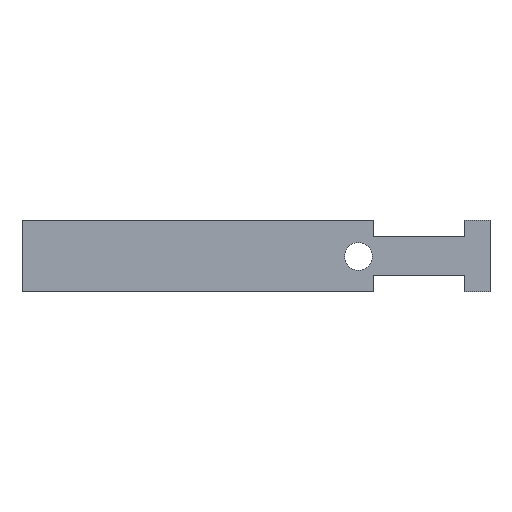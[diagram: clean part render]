
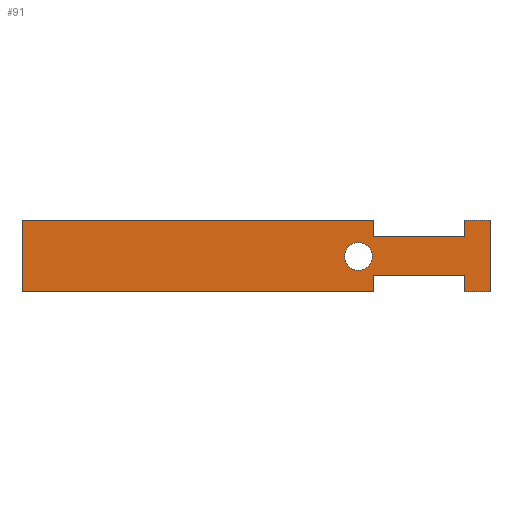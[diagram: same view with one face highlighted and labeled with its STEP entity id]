
A CAD part, top view. The second image highlights one B-rep face of the part: STEP entity #91.
In plain terms, the highlighted planar face has unit normal (0, 0, 1).
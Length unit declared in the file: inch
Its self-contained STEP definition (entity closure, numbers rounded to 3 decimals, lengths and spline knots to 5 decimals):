
#91=ADVANCED_FACE('',(#169,#170),#171,.T.);
#169=FACE_BOUND('',#270,.T.);
#170=FACE_OUTER_BOUND('',#271,.T.);
#171=PLANE('',#272);
#270=EDGE_LOOP('',(#414,#415,#416,#417));
#271=EDGE_LOOP('',(#418,#419,#420,#421,#422,#423,#424,#425,#426,#427,#428,#429));
#272=AXIS2_PLACEMENT_3D('',#430,#431,#432);
#414=ORIENTED_EDGE('',*,*,#463,.F.);
#415=ORIENTED_EDGE('',*,*,#498,.F.);
#416=ORIENTED_EDGE('',*,*,#443,.F.);
#417=ORIENTED_EDGE('',*,*,#486,.F.);
#418=ORIENTED_EDGE('',*,*,#439,.F.);
#419=ORIENTED_EDGE('',*,*,#434,.F.);
#420=ORIENTED_EDGE('',*,*,#482,.F.);
#421=ORIENTED_EDGE('',*,*,#458,.F.);
#422=ORIENTED_EDGE('',*,*,#484,.F.);
#423=ORIENTED_EDGE('',*,*,#453,.F.);
#424=ORIENTED_EDGE('',*,*,#496,.F.);
#425=ORIENTED_EDGE('',*,*,#448,.F.);
#426=ORIENTED_EDGE('',*,*,#494,.F.);
#427=ORIENTED_EDGE('',*,*,#491,.F.);
#428=ORIENTED_EDGE('',*,*,#488,.F.);
#429=ORIENTED_EDGE('',*,*,#479,.F.);
#430=CARTESIAN_POINT('',(4.67757,0.68751,0.105));
#431=DIRECTION('',(0.0,0.0,1.0));
#432=DIRECTION('',(1.0,0.0,0.0));
#434=EDGE_CURVE('',#501,#502,#503,.T.);
#439=EDGE_CURVE('',#502,#510,#511,.T.);
#443=EDGE_CURVE('',#516,#517,#518,.T.);
#448=EDGE_CURVE('',#525,#526,#527,.T.);
#453=EDGE_CURVE('',#534,#535,#536,.T.);
#458=EDGE_CURVE('',#543,#544,#545,.T.);
#463=EDGE_CURVE('',#552,#553,#554,.T.);
#479=EDGE_CURVE('',#510,#575,#576,.T.);
#482=EDGE_CURVE('',#544,#501,#579,.T.);
#484=EDGE_CURVE('',#535,#543,#581,.T.);
#486=EDGE_CURVE('',#553,#516,#583,.T.);
#488=EDGE_CURVE('',#575,#585,#586,.T.);
#491=EDGE_CURVE('',#585,#589,#590,.T.);
#494=EDGE_CURVE('',#589,#525,#593,.T.);
#496=EDGE_CURVE('',#526,#534,#595,.T.);
#498=EDGE_CURVE('',#517,#552,#597,.T.);
#501=VERTEX_POINT('',#600);
#502=VERTEX_POINT('',#601);
#503=LINE('',#602,#603);
#510=VERTEX_POINT('',#613);
#511=LINE('',#614,#615);
#516=VERTEX_POINT('',#622);
#517=VERTEX_POINT('',#623);
#518=B_SPLINE_CURVE_WITH_KNOTS('',3,(#624,#625,#626,#627),.UNSPECIFIED.,.F.,.F.,(4,4),(-1.0,-0.0),.UNSPECIFIED.);
#525=VERTEX_POINT('',#639);
#526=VERTEX_POINT('',#640);
#527=LINE('',#641,#642);
#534=VERTEX_POINT('',#652);
#535=VERTEX_POINT('',#653);
#536=LINE('',#654,#655);
#543=VERTEX_POINT('',#665);
#544=VERTEX_POINT('',#666);
#545=LINE('',#667,#668);
#552=VERTEX_POINT('',#678);
#553=VERTEX_POINT('',#679);
#554=B_SPLINE_CURVE_WITH_KNOTS('',3,(#680,#681,#682,#683),.UNSPECIFIED.,.F.,.F.,(4,4),(-1.0,-0.0),.UNSPECIFIED.);
#575=VERTEX_POINT('',#722);
#576=LINE('',#723,#724);
#579=LINE('',#728,#729);
#581=LINE('',#731,#732);
#583=B_SPLINE_CURVE_WITH_KNOTS('',3,(#734,#735,#736,#737),.UNSPECIFIED.,.F.,.F.,(4,4),(-1.0,-0.0),.UNSPECIFIED.);
#585=VERTEX_POINT('',#739);
#586=LINE('',#740,#741);
#589=VERTEX_POINT('',#745);
#590=LINE('',#746,#747);
#593=LINE('',#751,#752);
#595=LINE('',#754,#755);
#597=B_SPLINE_CURVE_WITH_KNOTS('',3,(#757,#758,#759,#760),.UNSPECIFIED.,.F.,.F.,(4,4),(-1.0,-0.0),.UNSPECIFIED.);
#600=CARTESIAN_POINT('',(9.0,0.0,0.105));
#601=CARTESIAN_POINT('',(8.5,0.0,0.105));
#602=CARTESIAN_POINT('',(9.0,0.0,0.105));
#603=VECTOR('',#762,1.0);
#613=CARTESIAN_POINT('',(8.50007,0.31246,0.105));
#614=CARTESIAN_POINT('',(8.5,0.0,0.105));
#615=VECTOR('',#766,1.0);
#622=CARTESIAN_POINT('',(6.46866,0.41444,0.105));
#623=CARTESIAN_POINT('',(6.73428,0.68007,0.105));
#624=CARTESIAN_POINT('',(6.46866,0.41444,0.105));
#625=CARTESIAN_POINT('',(6.61536,0.41444,0.105));
#626=CARTESIAN_POINT('',(6.73428,0.53337,0.105));
#627=CARTESIAN_POINT('',(6.73428,0.68007,0.105));
#639=CARTESIAN_POINT('',(0.0,1.375,0.105));
#640=CARTESIAN_POINT('',(6.75007,1.375,0.105));
#641=CARTESIAN_POINT('',(0.0,1.375,0.105));
#642=VECTOR('',#771,1.0);
#652=CARTESIAN_POINT('',(6.75007,1.06288,0.105));
#653=CARTESIAN_POINT('',(8.50007,1.06246,0.105));
#654=CARTESIAN_POINT('',(6.75007,1.06288,0.105));
#655=VECTOR('',#775,1.0);
#665=CARTESIAN_POINT('',(8.5,1.375,0.105));
#666=CARTESIAN_POINT('',(9.0,1.375,0.105));
#667=CARTESIAN_POINT('',(8.5,1.375,0.105));
#668=VECTOR('',#779,1.0);
#678=CARTESIAN_POINT('',(6.46866,0.94569,0.105));
#679=CARTESIAN_POINT('',(6.20303,0.68007,0.105));
#680=CARTESIAN_POINT('',(6.46866,0.94569,0.105));
#681=CARTESIAN_POINT('',(6.32195,0.94569,0.105));
#682=CARTESIAN_POINT('',(6.20303,0.82677,0.105));
#683=CARTESIAN_POINT('',(6.20303,0.68007,0.105));
#722=CARTESIAN_POINT('',(6.75007,0.31269,0.105));
#723=CARTESIAN_POINT('',(8.50007,0.31246,0.105));
#724=VECTOR('',#792,1.0);
#728=CARTESIAN_POINT('',(9.0,1.375,0.105));
#729=VECTOR('',#794,1.0);
#731=CARTESIAN_POINT('',(8.50007,1.06246,0.105));
#732=VECTOR('',#795,1.0);
#734=CARTESIAN_POINT('',(6.20303,0.68007,0.105));
#735=CARTESIAN_POINT('',(6.20303,0.53337,0.105));
#736=CARTESIAN_POINT('',(6.32195,0.41444,0.105));
#737=CARTESIAN_POINT('',(6.46866,0.41444,0.105));
#739=CARTESIAN_POINT('',(6.75007,0.0,0.105));
#740=CARTESIAN_POINT('',(6.75007,0.31269,0.105));
#741=VECTOR('',#796,1.0);
#745=CARTESIAN_POINT('',(0.0,0.0,0.105));
#746=CARTESIAN_POINT('',(6.75007,0.0,0.105));
#747=VECTOR('',#798,1.0);
#751=CARTESIAN_POINT('',(0.0,0.0,0.105));
#752=VECTOR('',#800,1.0);
#754=CARTESIAN_POINT('',(6.75007,1.375,0.105));
#755=VECTOR('',#801,1.0);
#757=CARTESIAN_POINT('',(6.73428,0.68007,0.105));
#758=CARTESIAN_POINT('',(6.73428,0.82677,0.105));
#759=CARTESIAN_POINT('',(6.61536,0.94569,0.105));
#760=CARTESIAN_POINT('',(6.46866,0.94569,0.105));
#762=DIRECTION('',(-1.0,0.0,0.0));
#766=DIRECTION('',(0.,1.,0.0));
#771=DIRECTION('',(1.0,0.0,0.0));
#775=DIRECTION('',(1.,0.,0.0));
#779=DIRECTION('',(1.0,0.0,0.0));
#792=DIRECTION('',(-1.,0.,0.0));
#794=DIRECTION('',(0.0,-1.0,0.0));
#795=DIRECTION('',(0.,1.,0.0));
#796=DIRECTION('',(0.0,-1.0,0.0));
#798=DIRECTION('',(-1.0,0.0,0.0));
#800=DIRECTION('',(0.0,1.0,0.0));
#801=DIRECTION('',(0.0,-1.0,0.0));
